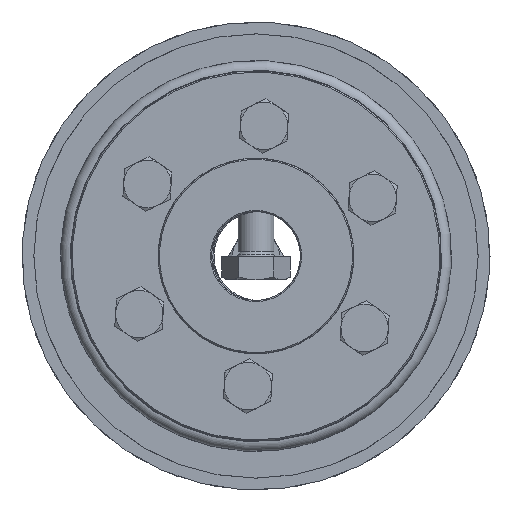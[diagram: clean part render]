
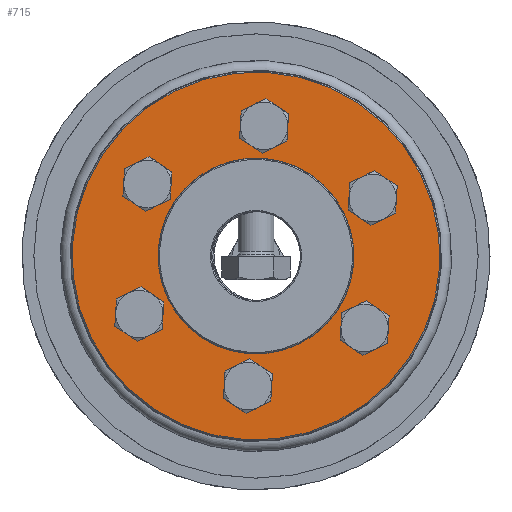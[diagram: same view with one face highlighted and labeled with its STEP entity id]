
A CAD part, left-side view. The second image highlights one B-rep face of the part: STEP entity #715.
In plain terms, the highlighted planar face has unit normal (-1, 0, 0).
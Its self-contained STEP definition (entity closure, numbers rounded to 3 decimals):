
#715 = ADVANCED_FACE( 'NONE', ( #1113, #1114, #1115, #1116, #1117, #1118, #1119, #1120 ), #1121, .F. );
#1113 = FACE_OUTER_BOUND( '', #1696, .T. );
#1114 = FACE_BOUND( '', #1697, .T. );
#1115 = FACE_BOUND( '', #1698, .T. );
#1116 = FACE_BOUND( '', #1699, .T. );
#1117 = FACE_BOUND( '', #1700, .T. );
#1118 = FACE_BOUND( '', #1701, .T. );
#1119 = FACE_BOUND( '', #1702, .T. );
#1120 = FACE_BOUND( '', #1703, .T. );
#1121 = PLANE( '', #1704 );
#1696 = EDGE_LOOP( '', ( #2327 ) );
#1697 = EDGE_LOOP( '', ( #2328 ) );
#1698 = EDGE_LOOP( '', ( #2329 ) );
#1699 = EDGE_LOOP( '', ( #2330 ) );
#1700 = EDGE_LOOP( '', ( #2331 ) );
#1701 = EDGE_LOOP( '', ( #2332 ) );
#1702 = EDGE_LOOP( '', ( #2333 ) );
#1703 = EDGE_LOOP( '', ( #2334 ) );
#1704 = AXIS2_PLACEMENT_3D( '', #2335, #2336, #2337 );
#2327 = ORIENTED_EDGE( '', *, *, #3456, .T. );
#2328 = ORIENTED_EDGE( '', *, *, #3445, .T. );
#2329 = ORIENTED_EDGE( '', *, *, #3457, .T. );
#2330 = ORIENTED_EDGE( '', *, *, #3458, .T. );
#2331 = ORIENTED_EDGE( '', *, *, #3454, .T. );
#2332 = ORIENTED_EDGE( '', *, *, #3459, .T. );
#2333 = ORIENTED_EDGE( '', *, *, #3460, .T. );
#2334 = ORIENTED_EDGE( '', *, *, #3455, .F. );
#2335 = CARTESIAN_POINT( '', ( 0., 16.5, 0. ) );
#2336 = DIRECTION( '', ( 1., 0., 0. ) );
#2337 = DIRECTION( '', ( 0., 1., 0. ) );
#3445 = EDGE_CURVE( 'NONE', #3817, #3817, #3818, .T. );
#3454 = EDGE_CURVE( 'NONE', #3835, #3835, #3836, .T. );
#3455 = EDGE_CURVE( 'NONE', #3837, #3837, #3838, .T. );
#3456 = EDGE_CURVE( 'NONE', #3839, #3839, #3840, .T. );
#3457 = EDGE_CURVE( 'NONE', #3841, #3841, #3842, .T. );
#3458 = EDGE_CURVE( 'NONE', #3843, #3843, #3844, .T. );
#3459 = EDGE_CURVE( 'NONE', #3845, #3845, #3846, .T. );
#3460 = EDGE_CURVE( 'NONE', #3847, #3847, #3848, .T. );
#3817 = VERTEX_POINT( '', #4305 );
#3818 = CIRCLE( '', #4306, 2.75 );
#3835 = VERTEX_POINT( '', #4323 );
#3836 = CIRCLE( '', #4324, 2.75 );
#3837 = VERTEX_POINT( '', #4325 );
#3838 = CIRCLE( '', #4326, 16.5 );
#3839 = VERTEX_POINT( '', #4327 );
#3840 = CIRCLE( '', #4328, 31.05 );
#3841 = VERTEX_POINT( '', #4329 );
#3842 = CIRCLE( '', #4330, 2.75 );
#3843 = VERTEX_POINT( '', #4331 );
#3844 = CIRCLE( '', #4332, 2.75 );
#3845 = VERTEX_POINT( '', #4333 );
#3846 = CIRCLE( '', #4334, 2.75 );
#3847 = VERTEX_POINT( '', #4335 );
#3848 = CIRCLE( '', #4336, 2.75 );
#4305 = CARTESIAN_POINT( '', ( 0., 11., 16.303 ) );
#4306 = AXIS2_PLACEMENT_3D( '', #5269, #5270, #5271 );
#4323 = CARTESIAN_POINT( '', ( 0., -11., -21.803 ) );
#4324 = AXIS2_PLACEMENT_3D( '', #5296, #5297, #5298 );
#4325 = CARTESIAN_POINT( '', ( 0., 0., 16.5 ) );
#4326 = AXIS2_PLACEMENT_3D( '', #5299, #5300, #5301 );
#4327 = CARTESIAN_POINT( '', ( 0., 0., -31.05 ) );
#4328 = AXIS2_PLACEMENT_3D( '', #5302, #5303, #5304 );
#4329 = CARTESIAN_POINT( '', ( 0., -11., 16.303 ) );
#4330 = AXIS2_PLACEMENT_3D( '', #5305, #5306, #5307 );
#4331 = CARTESIAN_POINT( '', ( 0., -22., -2.75 ) );
#4332 = AXIS2_PLACEMENT_3D( '', #5308, #5309, #5310 );
#4333 = CARTESIAN_POINT( '', ( 0., 11., -21.803 ) );
#4334 = AXIS2_PLACEMENT_3D( '', #5311, #5312, #5313 );
#4335 = CARTESIAN_POINT( '', ( 0., 22., -2.75 ) );
#4336 = AXIS2_PLACEMENT_3D( '', #5314, #5315, #5316 );
#5269 = CARTESIAN_POINT( '', ( 0., 11., 19.053 ) );
#5270 = DIRECTION( '', ( 1., 0., 0. ) );
#5271 = DIRECTION( '', ( 0., 0., -1. ) );
#5296 = CARTESIAN_POINT( '', ( 0., -11., -19.053 ) );
#5297 = DIRECTION( '', ( 1., 0., 0. ) );
#5298 = DIRECTION( '', ( 0., 0., -1. ) );
#5299 = CARTESIAN_POINT( '', ( 0., 0., 0. ) );
#5300 = DIRECTION( '', ( -1., 0., 0. ) );
#5301 = DIRECTION( '', ( 0., 0., 1. ) );
#5302 = CARTESIAN_POINT( '', ( 0., 0., 0. ) );
#5303 = DIRECTION( '', ( -1., 0., 0. ) );
#5304 = DIRECTION( '', ( 0., 0., -1. ) );
#5305 = CARTESIAN_POINT( '', ( 0., -11., 19.053 ) );
#5306 = DIRECTION( '', ( 1., 0., 0. ) );
#5307 = DIRECTION( '', ( 0., 0., -1. ) );
#5308 = CARTESIAN_POINT( '', ( 0., -22., 0. ) );
#5309 = DIRECTION( '', ( 1., 0., 0. ) );
#5310 = DIRECTION( '', ( 0., 0., -1. ) );
#5311 = CARTESIAN_POINT( '', ( 0., 11., -19.053 ) );
#5312 = DIRECTION( '', ( 1., 0., 0. ) );
#5313 = DIRECTION( '', ( 0., 0., -1. ) );
#5314 = CARTESIAN_POINT( '', ( 0., 22., 0. ) );
#5315 = DIRECTION( '', ( 1., 0., 0. ) );
#5316 = DIRECTION( '', ( 0., 0., -1. ) );
